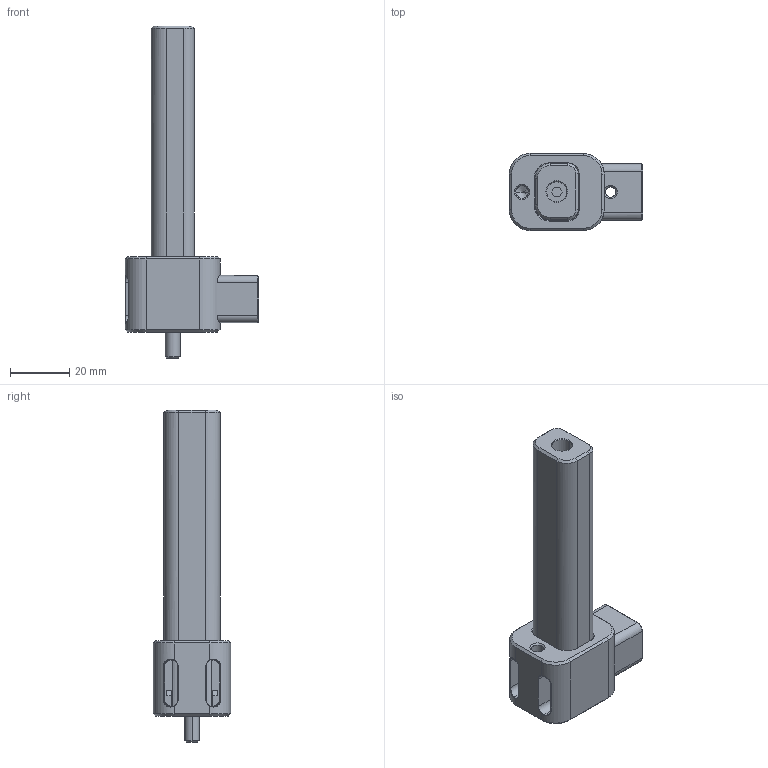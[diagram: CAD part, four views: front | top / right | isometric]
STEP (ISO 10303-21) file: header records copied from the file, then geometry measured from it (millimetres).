
FILE_DESCRIPTION (( 'STEP AP214' ), '1' );
FILE_NAME ('CAMM-200L.STEP', '2012-02-20T18:25:36', ( 'Progressive Components' ), ( 'Progressive Components' ), 'SwSTEP 2.0', 'SolidWorks 2010', '' );
FILE_SCHEMA (( 'AUTOMOTIVE_DESIGN' ));
Length unit declared in the file: millimetre
Products named in the file (5): CAMM-100-H; CA-200-S; CAMM-200-DL100; M5X10 LHCS; CAMM-200L
Assembly tree (4 placements, depth 2):
  CAMM-200L
    CAMM-100-H
    CA-200-S
    M5X10 LHCS
    CAMM-200-DL100
Bounding box: 44.99 x 26.01 x 111.97 mm (x, y, z)
Volume: 35857 mm3; surface area: 18780.2 mm2
Topology: 4 solids, 4 shells, 303 faces, 743 edges, 446 vertices
Faces by surface type: plane 149, cylinder 72, cone 50, torus 16, bspline 16
Entity records: 11200 total; most frequent: CARTESIAN_POINT 3905, DIRECTION 1488, ORIENTED_EDGE 1478, EDGE_CURVE 739, AXIS2_PLACEMENT_3D 509, LINE 470, VECTOR 470, VERTEX_POINT 446
